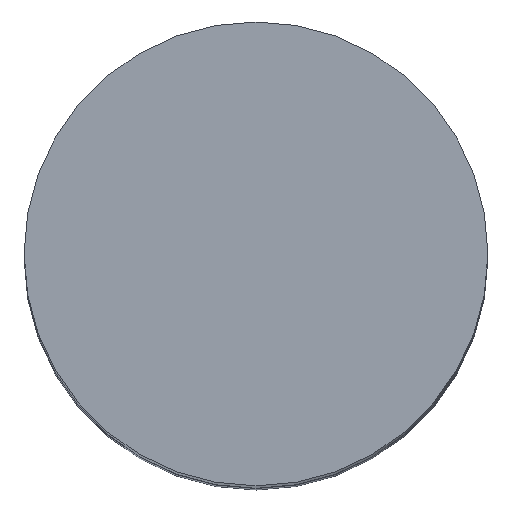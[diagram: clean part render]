
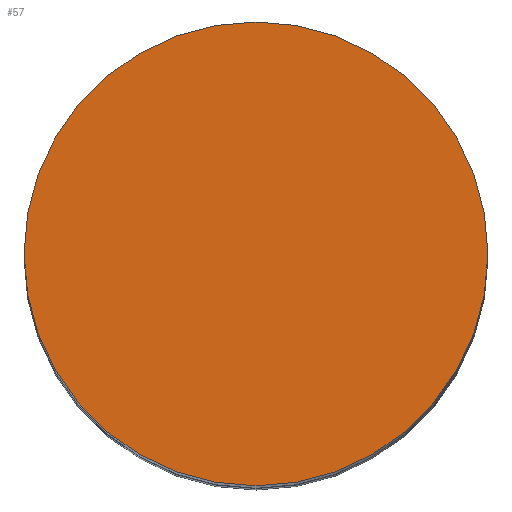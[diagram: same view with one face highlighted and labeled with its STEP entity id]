
A CAD part, top view. The second image highlights one B-rep face of the part: STEP entity #57.
In plain terms, the highlighted planar face has unit normal (0, 0, 1).
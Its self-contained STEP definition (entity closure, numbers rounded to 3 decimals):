
#57=ADVANCED_FACE('',(#110),#111,.T.);
#110=FACE_OUTER_BOUND('',#156,.T.);
#111=PLANE('',#157);
#156=EDGE_LOOP('',(#243,#244));
#157=AXIS2_PLACEMENT_3D('',#245,#246,#247);
#243=ORIENTED_EDGE('',*,*,#288,.T.);
#244=ORIENTED_EDGE('',*,*,#259,.T.);
#245=CARTESIAN_POINT('',(0.0,0.0,0.0));
#246=DIRECTION('',(0.0,0.0,1.0));
#247=DIRECTION('',(1.0,0.0,0.0));
#259=EDGE_CURVE('',#296,#293,#297,.T.);
#288=EDGE_CURVE('',#293,#296,#337,.T.);
#293=VERTEX_POINT('',#342);
#296=VERTEX_POINT('',#346);
#297=CIRCLE('',#347,10.0);
#337=CIRCLE('',#394,10.0);
#342=CARTESIAN_POINT('',(-10.0,0.0,0.0));
#346=CARTESIAN_POINT('',(10.0,0.,0.0));
#347=AXIS2_PLACEMENT_3D('',#399,#400,#401);
#394=AXIS2_PLACEMENT_3D('',#445,#446,#447);
#399=CARTESIAN_POINT('',(0.0,0.0,0.0));
#400=DIRECTION('',(0.0,0.0,1.0));
#401=DIRECTION('',(-1.0,0.0,0.0));
#445=CARTESIAN_POINT('',(0.0,0.0,0.0));
#446=DIRECTION('',(0.0,0.0,1.0));
#447=DIRECTION('',(-1.0,0.0,0.0));
